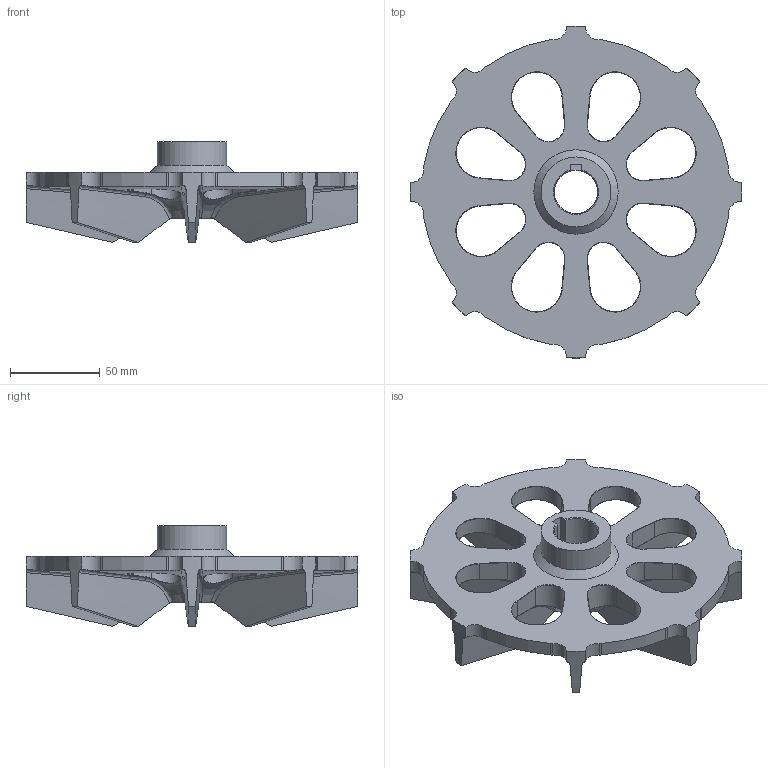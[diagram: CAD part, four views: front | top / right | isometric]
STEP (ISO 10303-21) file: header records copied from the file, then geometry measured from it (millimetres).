
FILE_DESCRIPTION(('STEP AP203'), '1');
FILE_NAME('鳻櫇錭歑 102', '', ('UNSPECIFIED'), ('UNSPECIFIED'), 'C3D Converter', 'C3D Toolkit', '');
FILE_SCHEMA(('CONFIG_CONTROL_DESIGN'));
Length unit declared in the file: millimetre
Products named in the file (1): импеллер 102
Bounding box: 184.67 x 184.67 x 56.06 mm (x, y, z)
Volume: 278622.1 mm3; surface area: 76753.2 mm2
Topology: 1 solids, 1 shells, 305 faces, 787 edges, 479 vertices
Faces by surface type: bspline 128, cylinder 85, torus 40, plane 40, cone 12
Full cylindrical faces by diameter (mm): 24.18 x1, 32 x1, 38.92 x1
Entity records: 22625 total; most frequent: CARTESIAN_POINT 14152, ORIENTED_EDGE 1564, DIRECTION 790, EDGE_CURVE 782, B_SPLINE_CURVE_WITH_KNOTS 491, VERTEX_POINT 479, AXIS2_PLACEMENT_3D 329, EDGE_LOOP 323
